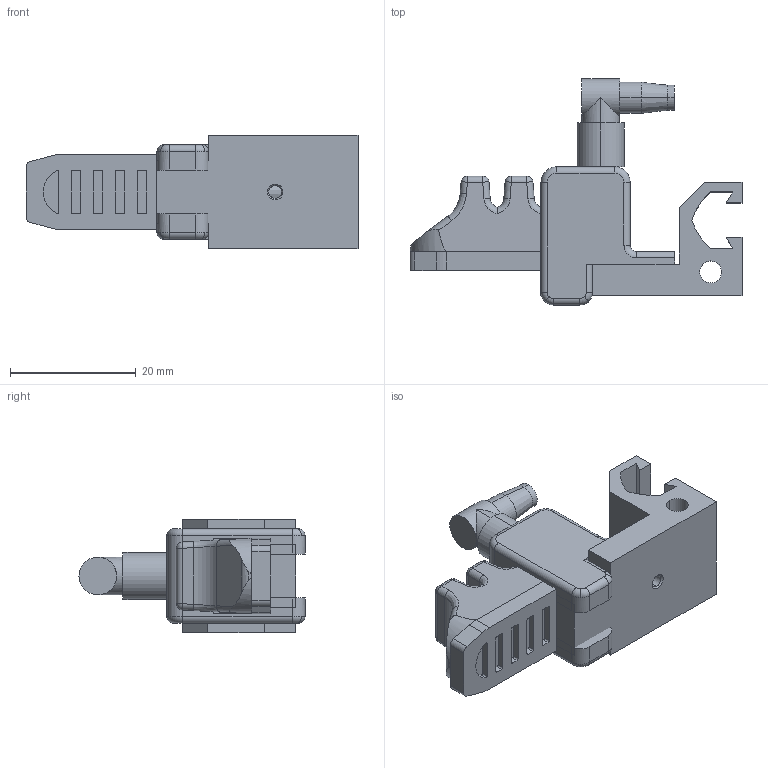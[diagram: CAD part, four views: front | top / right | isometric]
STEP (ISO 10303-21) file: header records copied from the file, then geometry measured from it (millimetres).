
FILE_DESCRIPTION (( 'STEP AP214' ), '1' );
FILE_NAME ('GFM-C3V5.STEP', '2019-12-04T05:55:39', ( '微软用户' ), ( '微软中国' ), 'SwSTEP 2.0', 'SolidWorks 2016', '' );
FILE_SCHEMA (( 'AUTOMOTIVE_DESIGN' ));
Length unit declared in the file: millimetre
Products named in the file (1): GFM-C3V5
Bounding box: 52.85 x 36 x 18 mm (x, y, z)
Volume: 10222.8 mm3; surface area: 7959 mm2
Topology: 4 solids, 4 shells, 248 faces, 599 edges, 368 vertices
Faces by surface type: cylinder 110, plane 96, torus 14, sphere 10, bspline 10, cone 8
Entity records: 10724 total; most frequent: CARTESIAN_POINT 2135, DIRECTION 1241, ORIENTED_EDGE 1198, EDGE_CURVE 599, AXIS2_PLACEMENT_3D 454, VERTEX_POINT 368, VECTOR 333, LINE 333
